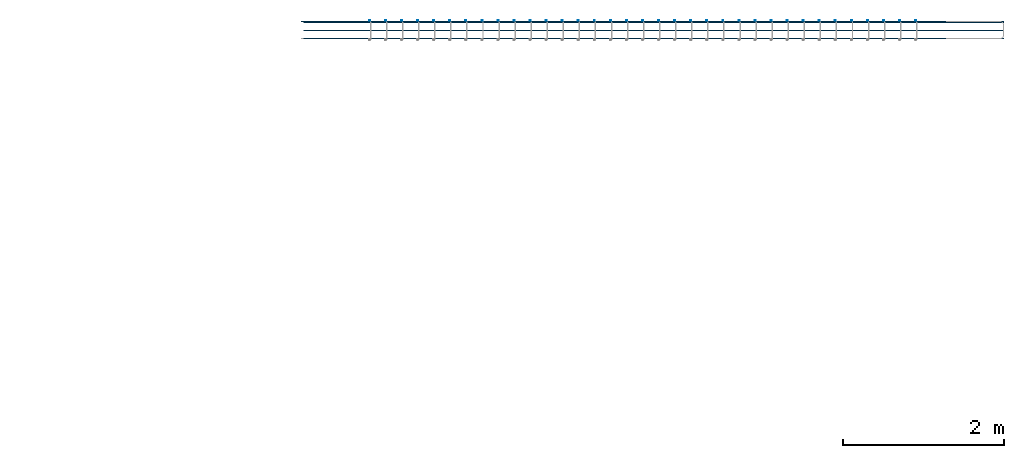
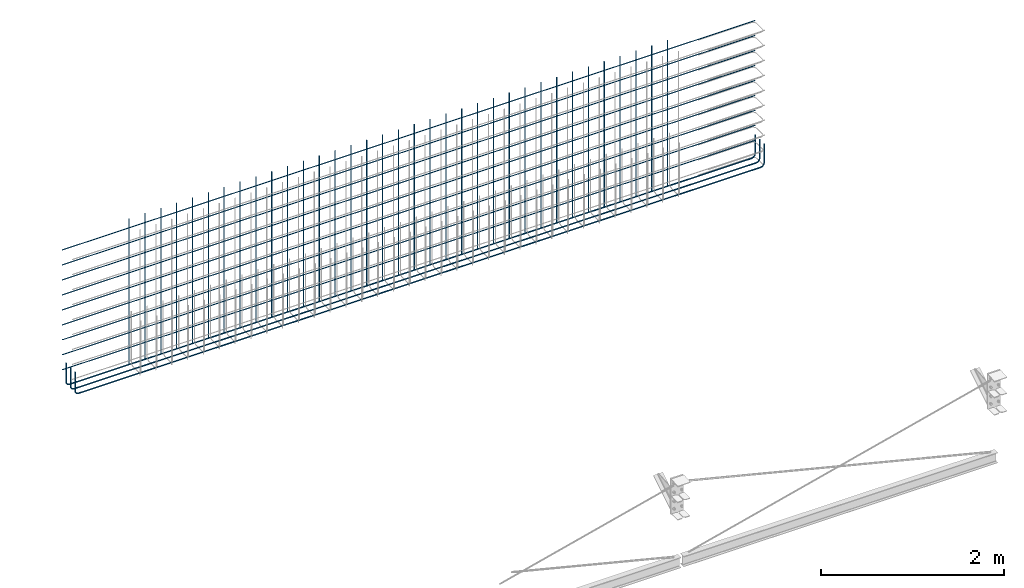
# One storey, part 4 of 21: 3 reinforcing bars.
"""IFC4X3_ADD2 building model written with IfcOpenShell, lengths in millimetres."""

import ifcopenshell
import ifcopenshell.guid

model = None  # the IFC model being written
_history = None  # IfcOwnerHistory: only IFC2X3 demands one
_inside = {}  # id of a spatial element -> (the spatial element, [elements in it])
_under = {}  # id of a project, library or spatial element -> (it, [spatial elements below it])
_declared = {}  # id of a project -> (the project, [libraries it declares])
_typed = {}  # id of a type object -> (the type object, [elements of that type])
_made_of = {}  # id of a material, layer set ... -> (it, [elements and type objects made of it])


def new_model(schema):
    """Start an empty IFC model of exactly this schema.

    Asked for "IFC4X3", IfcOpenShell would pick the latest addendum, in which some entities
    have other attributes; the version numbers below select the first issue.
    IFC2X3 requires an IfcOwnerHistory on every rooted entity: one is made here for all.
    """
    global model, _history
    if schema == "IFC4X3":
        model = ifcopenshell.file(schema_version=(4, 3, 0, 0))
    else:
        model = ifcopenshell.file(schema=schema)
    _inside.clear()
    _under.clear()
    _declared.clear()
    _typed.clear()
    _made_of.clear()
    _history = None
    if model.schema == "IFC2X3":
        org = make("IfcOrganization", Name="unknown")
        user = make(
            "IfcPersonAndOrganization",
            ThePerson=make("IfcPerson", FamilyName="unknown"),
            TheOrganization=org,
        )
        app = make(
            "IfcApplication",
            ApplicationDeveloper=org,
            Version="unknown",
            ApplicationFullName="unknown",
            ApplicationIdentifier="unknown",
        )
        _history = make(
            "IfcOwnerHistory",
            OwningUser=user,
            OwningApplication=app,
            ChangeAction="ADDED",
            CreationDate=0,
        )
    return model


def make(cls, **values):
    """One entity of the class cls with the attributes given. An attribute that is None is left unset."""
    return model.create_entity(
        cls, **{name: value for name, value in values.items() if value is not None}
    )


def entity(cls, *values):
    """Any entity or typed value of the class cls, its attributes in the order of the schema. None: left unset."""
    e = model.create_entity(cls)
    for i, value in enumerate(values):
        if value is not None:
            e[i] = value
    return e


def rooted(cls, **values):
    """An entity with a GlobalId (a new one), such as an element, a storey or a relation."""
    return make(cls, GlobalId=ifcopenshell.guid.new(), OwnerHistory=_history, **values)


def si_unit(unit_type, name, prefix=None):
    """IfcSIUnit, for example si_unit("LENGTHUNIT", "METRE", prefix="MILLI")."""
    return make("IfcSIUnit", UnitType=unit_type, Prefix=prefix, Name=name)


def converted_unit(unit_type, name, factor, base, dimensions=None, offset=None):
    """IfcConversionBasedUnit, such as the inch: factor (a typed value) times the base unit."""
    return make(
        "IfcConversionBasedUnit"
        if offset is None
        else "IfcConversionBasedUnitWithOffset",
        ConversionOffset=offset,
        Dimensions=None
        if dimensions is None
        else entity("IfcDimensionalExponents", *dimensions),
        UnitType=unit_type,
        Name=name,
        ConversionFactor=make(
            "IfcMeasureWithUnit", ValueComponent=factor, UnitComponent=base
        ),
    )


def derived_unit(unit_type, elements):
    """IfcDerivedUnit: a product of units, each with its exponent."""
    return make(
        "IfcDerivedUnit",
        Elements=[
            make("IfcDerivedUnitElement", Unit=unit, Exponent=power)
            for unit, power in elements
        ],
        UnitType=unit_type,
    )


def assignment(units):
    """IfcUnitAssignment: the units of a project."""
    return None if units is None else make("IfcUnitAssignment", Units=units)


def point(xyz):
    """IfcCartesianPoint."""
    return None if xyz is None else make("IfcCartesianPoint", Coordinates=xyz)


def direction(xyz):
    """IfcDirection."""
    return None if xyz is None else make("IfcDirection", DirectionRatios=xyz)


def frame(location, z_axis=None, x_axis=None):
    """IfcAxis2Placement3D, a coordinate frame: its origin and axes. An axis left out is left unset."""
    return make(
        "IfcAxis2Placement3D",
        Location=point(location),
        Axis=direction(z_axis),
        RefDirection=direction(x_axis),
    )


def origin():
    """The frame at (0, 0, 0) with its axes left unset."""
    return frame((0.0, 0.0, 0.0))


def place(relative_to, where):
    """IfcLocalPlacement: puts the frame where relative to a parent placement (None: the world)."""
    return make(
        "IfcLocalPlacement", PlacementRelTo=relative_to, RelativePlacement=where
    )


def context(
    kind, dimensions, precision=None, world=None, true_north=None, identifier=None
):
    """IfcGeometricRepresentationContext, for example the 3D "Model" context."""
    return make(
        "IfcGeometricRepresentationContext",
        ContextIdentifier=identifier,
        ContextType=kind,
        CoordinateSpaceDimension=dimensions,
        Precision=precision,
        WorldCoordinateSystem=world,
        TrueNorth=true_north,
    )


def subcontext(parent, identifier, kind, view, scale=None):
    """IfcGeometricRepresentationSubContext, for example "Body" below "Model"."""
    return make(
        "IfcGeometricRepresentationSubContext",
        ContextIdentifier=identifier,
        ContextType=kind,
        ParentContext=parent,
        TargetScale=scale,
        TargetView=view,
    )


def project(units=None, contexts=None):
    """IfcProject with its units and contexts."""
    return rooted(
        "IfcProject",
        Name="project",
        RepresentationContexts=contexts,
        UnitsInContext=assignment(units),
    )


def spatial(cls, under=None, at=None, **own):
    """A site, building, storey or space (cls), placed at a placement, below another one or the project."""
    s = rooted(cls, ObjectPlacement=at, **own)
    if under is not None:
        _under.setdefault(under.id(), (under, []))[1].append(s)
    return s


def shape(context_of_items, identifier, shape_type, items):
    """IfcShapeRepresentation: the items that make up one representation, for example the "Body"."""
    return make(
        "IfcShapeRepresentation",
        ContextOfItems=context_of_items,
        RepresentationIdentifier=identifier,
        RepresentationType=shape_type,
        Items=items,
    )


def material(Name=None, Category=None):
    """IfcMaterial."""
    return make("IfcMaterial", Name=Name, Category=Category)


def made_of(thing, what):
    """Note that an element or type object is made of a material, layer set ...; save() writes the relation."""
    if what is not None:
        _made_of.setdefault(what.id(), (what, []))[1].append(thing)
    return thing


def type_object(cls, material=None, **own):
    """A type object (cls), such as IfcWallType, which elements share."""
    return made_of(rooted(cls, **own), material)


def element(
    cls,
    number,
    at=None,
    inside=None,
    cuts=None,
    type_object=None,
    material=None,
    context=None,
    identifier="Body",
    shape_type=None,
    held_by="IfcProductDefinitionShape",
    body=None,
    shapes=None,
    **own,
):
    """One element of the class cls, such as IfcWall. Its Tag is "e" and its number.

    at: its placement. inside: the storey or other place that contains it. cuts: it is an
    opening in that element (IfcRelVoidsElement). A single representation is given by context,
    identifier, shape_type and body (its items); several are given by shapes. held_by: the class
    of the entity that holds the representations. save() writes the other relations.
    """
    e = rooted(cls, Tag="e%d" % number, ObjectPlacement=at, **own)
    if body is not None:
        shapes = [shape(context, identifier, shape_type, body)]
    if shapes is not None:
        e.Representation = make(held_by, Representations=shapes)
    if inside is not None:
        _inside.setdefault(inside.id(), (inside, []))[1].append(e)
    if cuts is not None:
        rooted(
            "IfcRelVoidsElement", RelatingBuildingElement=cuts, RelatedOpeningElement=e
        )
    if type_object is not None:
        _typed.setdefault(type_object.id(), (type_object, []))[1].append(e)
    return made_of(e, material)


def aggregate(whole, parts):
    """IfcRelAggregates: a whole, such as a stair, and the parts it consists of."""
    return rooted("IfcRelAggregates", RelatingObject=whole, RelatedObjects=parts)


def save(model, path):
    """Write the relations noted so far, then the file.

    IfcRelAggregates (storeys below a building ...), IfcRelContainedInSpatialStructure (elements
    in a storey), IfcRelDefinesByType, IfcRelAssociatesMaterial and IfcRelDeclares: one each for
    every whole, place, type object, material and project.
    """
    for whole, parts in _under.values():
        aggregate(whole, parts)
    for where, things in _inside.values():
        rooted(
            "IfcRelContainedInSpatialStructure",
            RelatedElements=things,
            RelatingStructure=where,
        )
    for kind, things in _typed.values():
        rooted("IfcRelDefinesByType", RelatedObjects=things, RelatingType=kind)
    for what, things in _made_of.values():
        rooted("IfcRelAssociatesMaterial", RelatedObjects=things, RelatingMaterial=what)
    for by, libraries in _declared.values():
        rooted("IfcRelDeclares", RelatingContext=by, RelatedDefinitions=libraries)
    model.write(path)


model = new_model("IFC4X3_ADD2")

# Units and contexts
model_context = context("Model", 3, precision=0.01, world=origin(), true_north=direction((6.123233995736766e-17, 1.0)))
plan_context = context("Plan", 3, precision=0.01, world=origin(), true_north=direction((6.123233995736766e-17, 1.0)))
body_context = subcontext(model_context, "Body", "Model", "MODEL_VIEW")
ifc_project = project(units=[si_unit("LENGTHUNIT", "METRE", prefix="MILLI"), converted_unit("PLANEANGLEUNIT", "DEGREE", entity("IfcPlaneAngleMeasure", 0.017453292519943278), si_unit("PLANEANGLEUNIT", "RADIAN"), dimensions=[0, 0, 0, 0, 0, 0, 0]), si_unit("AREAUNIT", "SQUARE_METRE"), si_unit("VOLUMEUNIT", "CUBIC_METRE"), derived_unit("THERMALTRANSMITTANCEUNIT", [(si_unit("MASSUNIT", "GRAM", prefix="KILO"), 1), (si_unit("THERMODYNAMICTEMPERATUREUNIT", "KELVIN"), -1), (si_unit("TIMEUNIT", "SECOND"), -3)]), derived_unit("USERDEFINED", [(si_unit("MASSUNIT", "GRAM", prefix="KILO"), 1), (si_unit("THERMODYNAMICTEMPERATUREUNIT", "KELVIN"), -1), (si_unit("TIMEUNIT", "SECOND"), -2)]), derived_unit("THERMALRESISTANCEUNIT", [(si_unit("MASSUNIT", "GRAM", prefix="KILO"), -1), (si_unit("TIMEUNIT", "SECOND"), 3), (si_unit("THERMODYNAMICTEMPERATUREUNIT", "KELVIN"), 1)]), si_unit("MASSUNIT", "GRAM", prefix="KILO"), derived_unit("MOMENTOFINERTIAUNIT", [(si_unit("LENGTHUNIT", "METRE"), 4)]), derived_unit("LINEARFORCEUNIT", [(si_unit("MASSUNIT", "GRAM", prefix="KILO"), 1), (si_unit("TIMEUNIT", "SECOND"), -2)]), derived_unit("WARPINGCONSTANTUNIT", [(si_unit("LENGTHUNIT", "METRE"), 6)]), si_unit("PRESSUREUNIT", "PASCAL"), derived_unit("MASSDENSITYUNIT", [(si_unit("MASSUNIT", "GRAM", prefix="KILO"), 1), (si_unit("LENGTHUNIT", "METRE"), -3)]), derived_unit("MODULUSOFELASTICITYUNIT", [(si_unit("MASSUNIT", "GRAM", prefix="KILO"), 1), (si_unit("TIMEUNIT", "SECOND"), -2), (si_unit("LENGTHUNIT", "METRE"), -1)]), derived_unit("THERMALEXPANSIONCOEFFICIENTUNIT", [(si_unit("THERMODYNAMICTEMPERATUREUNIT", "KELVIN"), -1)]), derived_unit("VAPORPERMEABILITYUNIT", [(si_unit("LENGTHUNIT", "METRE"), -1), (si_unit("TIMEUNIT", "SECOND"), 1)]), derived_unit("USERDEFINED", [(si_unit("MASSUNIT", "GRAM", prefix="KILO"), 1), (si_unit("TIMEUNIT", "SECOND"), -3), (si_unit("LENGTHUNIT", "METRE"), 3), (si_unit("ELECTRICCURRENTUNIT", "AMPERE"), -2)]), derived_unit("SPECIFICHEATCAPACITYUNIT", [(si_unit("THERMODYNAMICTEMPERATUREUNIT", "KELVIN"), -1), (si_unit("TIMEUNIT", "SECOND"), -2), (si_unit("LENGTHUNIT", "METRE"), 2)]), derived_unit("THERMALCONDUCTANCEUNIT", [(si_unit("MASSUNIT", "GRAM", prefix="KILO"), 1), (si_unit("THERMODYNAMICTEMPERATUREUNIT", "KELVIN"), -1), (si_unit("TIMEUNIT", "SECOND"), -3), (si_unit("LENGTHUNIT", "METRE"), 1)])], contexts=[model_context, plan_context])

# Site, building, storey
site_placement = place(None, origin())
site = spatial("IfcSite", under=ifc_project, at=site_placement, Name="Default", CompositionType="ELEMENT")
building_placement = place(site_placement, origin())
building = spatial("IfcBuilding", under=site, at=building_placement, Name="Complex structure", CompositionType="ELEMENT")
storey_placement = place(building_placement, frame((0.0, 0.0, 3000.0)))
storey = spatial("IfcBuildingStorey", under=building, at=storey_placement, Name="Level 01", CompositionType="ELEMENT", Elevation=3000.0)

# Reinforcing bars
ifc_material = material(Name="Steel Rebar - B500A, B or C", Category="Unassigned")
reinforcing_bar_type_1 = type_object("IfcReinforcingBarType", Name="Rebar Bar:12mm", PredefinedType="NOTDEFINED")
reinforcing_bar_1_placement = place(storey_placement, origin())
element("IfcReinforcingBar", 1, at=reinforcing_bar_1_placement, inside=storey, type_object=reinforcing_bar_type_1, material=ifc_material, Name="Rebar Bar:12mm : Shape 00", ObjectType="Rebar Bar:12mm", context=body_context, shape_type="AdvancedSweptSolid", body=[
    entity("IfcSweptDiskSolid", entity("IfcCompositeCurve", [entity("IfcCompositeCurveSegment", "CONTINUOUS", True, entity("IfcPolyline", [entity("IfcCartesianPoint", [-8568.221550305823, 4856.1332960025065, 25.0]), entity("IfcCartesianPoint", [-8568.221550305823, 4856.1332960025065, 1970.6246980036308])]))], False), 6.0, None, 0.0, 1.0),
    entity("IfcSweptDiskSolid", entity("IfcCompositeCurve", [entity("IfcCompositeCurveSegment", "CONTINUOUS", True, entity("IfcPolyline", [entity("IfcCartesianPoint", [-8368.221550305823, 4856.133296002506, 25.0]), entity("IfcCartesianPoint", [-8368.221550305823, 4856.133296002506, 1970.6246980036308])]))], False), 6.0, None, 0.0, 1.0),
    entity("IfcSweptDiskSolid", entity("IfcCompositeCurve", [entity("IfcCompositeCurveSegment", "CONTINUOUS", True, entity("IfcPolyline", [entity("IfcCartesianPoint", [-8168.221550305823, 4856.133296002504, 25.0]), entity("IfcCartesianPoint", [-8168.221550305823, 4856.133296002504, 1970.6246980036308])]))], False), 6.0, None, 0.0, 1.0),
    entity("IfcSweptDiskSolid", entity("IfcCompositeCurve", [entity("IfcCompositeCurveSegment", "CONTINUOUS", True, entity("IfcPolyline", [entity("IfcCartesianPoint", [-7968.221550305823, 4856.133296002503, 25.0]), entity("IfcCartesianPoint", [-7968.221550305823, 4856.133296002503, 1970.6246980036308])]))], False), 6.0, None, 0.0, 1.0),
    entity("IfcSweptDiskSolid", entity("IfcCompositeCurve", [entity("IfcCompositeCurveSegment", "CONTINUOUS", True, entity("IfcPolyline", [entity("IfcCartesianPoint", [-7768.221550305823, 4856.133296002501, 25.0]), entity("IfcCartesianPoint", [-7768.221550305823, 4856.133296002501, 1970.6246980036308])]))], False), 6.0, None, 0.0, 1.0),
    entity("IfcSweptDiskSolid", entity("IfcCompositeCurve", [entity("IfcCompositeCurveSegment", "CONTINUOUS", True, entity("IfcPolyline", [entity("IfcCartesianPoint", [-7568.221550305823, 4856.1332960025, 25.0]), entity("IfcCartesianPoint", [-7568.221550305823, 4856.1332960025, 1970.6246980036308])]))], False), 6.0, None, 0.0, 1.0),
    entity("IfcSweptDiskSolid", entity("IfcCompositeCurve", [entity("IfcCompositeCurveSegment", "CONTINUOUS", True, entity("IfcPolyline", [entity("IfcCartesianPoint", [-7368.221550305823, 4856.133296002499, 25.0]), entity("IfcCartesianPoint", [-7368.221550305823, 4856.133296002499, 1970.6246980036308])]))], False), 6.0, None, 0.0, 1.0),
    entity("IfcSweptDiskSolid", entity("IfcCompositeCurve", [entity("IfcCompositeCurveSegment", "CONTINUOUS", True, entity("IfcPolyline", [entity("IfcCartesianPoint", [-7168.221550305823, 4856.133296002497, 25.0]), entity("IfcCartesianPoint", [-7168.221550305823, 4856.133296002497, 1970.6246980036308])]))], False), 6.0, None, 0.0, 1.0),
    entity("IfcSweptDiskSolid", entity("IfcCompositeCurve", [entity("IfcCompositeCurveSegment", "CONTINUOUS", True, entity("IfcPolyline", [entity("IfcCartesianPoint", [-6968.221550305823, 4856.1332960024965, 25.0]), entity("IfcCartesianPoint", [-6968.221550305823, 4856.1332960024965, 1970.6246980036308])]))], False), 6.0, None, 0.0, 1.0),
    entity("IfcSweptDiskSolid", entity("IfcCompositeCurve", [entity("IfcCompositeCurveSegment", "CONTINUOUS", True, entity("IfcPolyline", [entity("IfcCartesianPoint", [-6768.221550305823, 4856.133296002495, 25.0]), entity("IfcCartesianPoint", [-6768.221550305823, 4856.133296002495, 1970.6246980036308])]))], False), 6.0, None, 0.0, 1.0),
    entity("IfcSweptDiskSolid", entity("IfcCompositeCurve", [entity("IfcCompositeCurveSegment", "CONTINUOUS", True, entity("IfcPolyline", [entity("IfcCartesianPoint", [-6568.221550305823, 4856.133296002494, 25.0]), entity("IfcCartesianPoint", [-6568.221550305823, 4856.133296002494, 1970.6246980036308])]))], False), 6.0, None, 0.0, 1.0),
    entity("IfcSweptDiskSolid", entity("IfcCompositeCurve", [entity("IfcCompositeCurveSegment", "CONTINUOUS", True, entity("IfcPolyline", [entity("IfcCartesianPoint", [-6368.221550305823, 4856.133296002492, 25.0]), entity("IfcCartesianPoint", [-6368.221550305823, 4856.133296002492, 1970.6246980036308])]))], False), 6.0, None, 0.0, 1.0),
    entity("IfcSweptDiskSolid", entity("IfcCompositeCurve", [entity("IfcCompositeCurveSegment", "CONTINUOUS", True, entity("IfcPolyline", [entity("IfcCartesianPoint", [-6168.221550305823, 4856.133296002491, 25.0]), entity("IfcCartesianPoint", [-6168.221550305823, 4856.133296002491, 1970.6246980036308])]))], False), 6.0, None, 0.0, 1.0),
    entity("IfcSweptDiskSolid", entity("IfcCompositeCurve", [entity("IfcCompositeCurveSegment", "CONTINUOUS", True, entity("IfcPolyline", [entity("IfcCartesianPoint", [-5968.221550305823, 4856.133296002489, 25.0]), entity("IfcCartesianPoint", [-5968.221550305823, 4856.133296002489, 1970.6246980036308])]))], False), 6.0, None, 0.0, 1.0),
    entity("IfcSweptDiskSolid", entity("IfcCompositeCurve", [entity("IfcCompositeCurveSegment", "CONTINUOUS", True, entity("IfcPolyline", [entity("IfcCartesianPoint", [-5768.221550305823, 4856.133296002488, 25.0]), entity("IfcCartesianPoint", [-5768.221550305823, 4856.133296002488, 1970.6246980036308])]))], False), 6.0, None, 0.0, 1.0),
    entity("IfcSweptDiskSolid", entity("IfcCompositeCurve", [entity("IfcCompositeCurveSegment", "CONTINUOUS", True, entity("IfcPolyline", [entity("IfcCartesianPoint", [-5568.221550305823, 4856.1332960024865, 25.0]), entity("IfcCartesianPoint", [-5568.221550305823, 4856.1332960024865, 1970.6246980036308])]))], False), 6.0, None, 0.0, 1.0),
    entity("IfcSweptDiskSolid", entity("IfcCompositeCurve", [entity("IfcCompositeCurveSegment", "CONTINUOUS", True, entity("IfcPolyline", [entity("IfcCartesianPoint", [-5368.221550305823, 4856.133296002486, 25.0]), entity("IfcCartesianPoint", [-5368.221550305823, 4856.133296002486, 1970.6246980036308])]))], False), 6.0, None, 0.0, 1.0),
    entity("IfcSweptDiskSolid", entity("IfcCompositeCurve", [entity("IfcCompositeCurveSegment", "CONTINUOUS", True, entity("IfcPolyline", [entity("IfcCartesianPoint", [-5168.221550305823, 4856.133296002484, 25.0]), entity("IfcCartesianPoint", [-5168.221550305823, 4856.133296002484, 1970.6246980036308])]))], False), 6.0, None, 0.0, 1.0),
    entity("IfcSweptDiskSolid", entity("IfcCompositeCurve", [entity("IfcCompositeCurveSegment", "CONTINUOUS", True, entity("IfcPolyline", [entity("IfcCartesianPoint", [-4968.221550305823, 4856.133296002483, 25.0]), entity("IfcCartesianPoint", [-4968.221550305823, 4856.133296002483, 1970.6246980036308])]))], False), 6.0, None, 0.0, 1.0),
    entity("IfcSweptDiskSolid", entity("IfcCompositeCurve", [entity("IfcCompositeCurveSegment", "CONTINUOUS", True, entity("IfcPolyline", [entity("IfcCartesianPoint", [-4768.221550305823, 4856.133296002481, 25.0]), entity("IfcCartesianPoint", [-4768.221550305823, 4856.133296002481, 1970.6246980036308])]))], False), 6.0, None, 0.0, 1.0),
    entity("IfcSweptDiskSolid", entity("IfcCompositeCurve", [entity("IfcCompositeCurveSegment", "CONTINUOUS", True, entity("IfcPolyline", [entity("IfcCartesianPoint", [-4568.221550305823, 4856.13329600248, 25.0]), entity("IfcCartesianPoint", [-4568.221550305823, 4856.13329600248, 1970.6246980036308])]))], False), 6.0, None, 0.0, 1.0),
    entity("IfcSweptDiskSolid", entity("IfcCompositeCurve", [entity("IfcCompositeCurveSegment", "CONTINUOUS", True, entity("IfcPolyline", [entity("IfcCartesianPoint", [-4368.221550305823, 4856.133296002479, 25.0]), entity("IfcCartesianPoint", [-4368.221550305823, 4856.133296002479, 1970.6246980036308])]))], False), 6.0, None, 0.0, 1.0),
    entity("IfcSweptDiskSolid", entity("IfcCompositeCurve", [entity("IfcCompositeCurveSegment", "CONTINUOUS", True, entity("IfcPolyline", [entity("IfcCartesianPoint", [-4168.221550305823, 4856.133296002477, 25.0]), entity("IfcCartesianPoint", [-4168.221550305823, 4856.133296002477, 1970.6246980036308])]))], False), 6.0, None, 0.0, 1.0),
    entity("IfcSweptDiskSolid", entity("IfcCompositeCurve", [entity("IfcCompositeCurveSegment", "CONTINUOUS", True, entity("IfcPolyline", [entity("IfcCartesianPoint", [-3968.2215503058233, 4856.1332960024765, 25.0]), entity("IfcCartesianPoint", [-3968.2215503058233, 4856.1332960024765, 1970.6246980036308])]))], False), 6.0, None, 0.0, 1.0),
    entity("IfcSweptDiskSolid", entity("IfcCompositeCurve", [entity("IfcCompositeCurveSegment", "CONTINUOUS", True, entity("IfcPolyline", [entity("IfcCartesianPoint", [-3768.221550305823, 4856.133296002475, 25.0]), entity("IfcCartesianPoint", [-3768.221550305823, 4856.133296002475, 1970.6246980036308])]))], False), 6.0, None, 0.0, 1.0),
    entity("IfcSweptDiskSolid", entity("IfcCompositeCurve", [entity("IfcCompositeCurveSegment", "CONTINUOUS", True, entity("IfcPolyline", [entity("IfcCartesianPoint", [-3568.2215503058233, 4856.133296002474, 25.0]), entity("IfcCartesianPoint", [-3568.2215503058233, 4856.133296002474, 1970.6246980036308])]))], False), 6.0, None, 0.0, 1.0),
    entity("IfcSweptDiskSolid", entity("IfcCompositeCurve", [entity("IfcCompositeCurveSegment", "CONTINUOUS", True, entity("IfcPolyline", [entity("IfcCartesianPoint", [-3368.2215503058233, 4856.133296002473, 25.0]), entity("IfcCartesianPoint", [-3368.2215503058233, 4856.133296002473, 1970.6246980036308])]))], False), 6.0, None, 0.0, 1.0),
    entity("IfcSweptDiskSolid", entity("IfcCompositeCurve", [entity("IfcCompositeCurveSegment", "CONTINUOUS", True, entity("IfcPolyline", [entity("IfcCartesianPoint", [-3168.2215503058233, 4856.133296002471, 25.0]), entity("IfcCartesianPoint", [-3168.2215503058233, 4856.133296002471, 1970.6246980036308])]))], False), 6.0, None, 0.0, 1.0),
    entity("IfcSweptDiskSolid", entity("IfcCompositeCurve", [entity("IfcCompositeCurveSegment", "CONTINUOUS", True, entity("IfcPolyline", [entity("IfcCartesianPoint", [-2968.2215503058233, 4856.13329600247, 25.0]), entity("IfcCartesianPoint", [-2968.2215503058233, 4856.13329600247, 1970.6246980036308])]))], False), 6.0, None, 0.0, 1.0),
    entity("IfcSweptDiskSolid", entity("IfcCompositeCurve", [entity("IfcCompositeCurveSegment", "CONTINUOUS", True, entity("IfcPolyline", [entity("IfcCartesianPoint", [-2768.2215503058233, 4856.133296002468, 25.0]), entity("IfcCartesianPoint", [-2768.2215503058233, 4856.133296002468, 1970.6246980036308])]))], False), 6.0, None, 0.0, 1.0),
    entity("IfcSweptDiskSolid", entity("IfcCompositeCurve", [entity("IfcCompositeCurveSegment", "CONTINUOUS", True, entity("IfcPolyline", [entity("IfcCartesianPoint", [-2568.2215503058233, 4856.133296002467, 25.0]), entity("IfcCartesianPoint", [-2568.2215503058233, 4856.133296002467, 1970.6246980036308])]))], False), 6.0, None, 0.0, 1.0),
    entity("IfcSweptDiskSolid", entity("IfcCompositeCurve", [entity("IfcCompositeCurveSegment", "CONTINUOUS", True, entity("IfcPolyline", [entity("IfcCartesianPoint", [-2368.2215503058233, 4856.1332960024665, 25.0]), entity("IfcCartesianPoint", [-2368.2215503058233, 4856.1332960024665, 1970.6246980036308])]))], False), 6.0, None, 0.0, 1.0),
    entity("IfcSweptDiskSolid", entity("IfcCompositeCurve", [entity("IfcCompositeCurveSegment", "CONTINUOUS", True, entity("IfcPolyline", [entity("IfcCartesianPoint", [-2168.2215503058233, 4856.133296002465, 25.0]), entity("IfcCartesianPoint", [-2168.2215503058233, 4856.133296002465, 1970.6246980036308])]))], False), 6.0, None, 0.0, 1.0),
    entity("IfcSweptDiskSolid", entity("IfcCompositeCurve", [entity("IfcCompositeCurveSegment", "CONTINUOUS", True, entity("IfcPolyline", [entity("IfcCartesianPoint", [-1968.221550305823, 4856.133296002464, 25.0]), entity("IfcCartesianPoint", [-1968.221550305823, 4856.133296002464, 1970.6246980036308])]))], False), 6.0, None, 0.0, 1.0),
    entity("IfcSweptDiskSolid", entity("IfcCompositeCurve", [entity("IfcCompositeCurveSegment", "CONTINUOUS", True, entity("IfcPolyline", [entity("IfcCartesianPoint", [-1768.221550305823, 4856.133296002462, 25.0]), entity("IfcCartesianPoint", [-1768.221550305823, 4856.133296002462, 1970.6246980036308])]))], False), 6.0, None, 0.0, 1.0),
])
reinforcing_bar_2_placement = place(storey_placement, origin())
element("IfcReinforcingBar", 2, at=reinforcing_bar_2_placement, inside=storey, type_object=reinforcing_bar_type_1, material=ifc_material, Name="Rebar Bar:12mm : Shape 00", ObjectType="Rebar Bar:12mm", context=body_context, shape_type="AdvancedSweptSolid", body=[
    entity("IfcSweptDiskSolid", entity("IfcCompositeCurve", [entity("IfcCompositeCurveSegment", "CONTINUOUS", True, entity("IfcPolyline", [entity("IfcCartesianPoint", [-670.2215503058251, 4844.133296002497, 259.0]), entity("IfcCartesianPoint", [-9420.221550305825, 4844.133296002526, 259.0])]))], False), 6.0, None, 0.0, 1.0),
    entity("IfcSweptDiskSolid", entity("IfcCompositeCurve", [entity("IfcCompositeCurveSegment", "CONTINUOUS", True, entity("IfcPolyline", [entity("IfcCartesianPoint", [-670.2215503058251, 4844.133296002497, 459.0]), entity("IfcCartesianPoint", [-9420.221550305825, 4844.133296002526, 459.0])]))], False), 6.0, None, 0.0, 1.0),
    entity("IfcSweptDiskSolid", entity("IfcCompositeCurve", [entity("IfcCompositeCurveSegment", "CONTINUOUS", True, entity("IfcPolyline", [entity("IfcCartesianPoint", [-670.2215503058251, 4844.133296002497, 659.0]), entity("IfcCartesianPoint", [-9420.221550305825, 4844.133296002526, 659.0])]))], False), 6.0, None, 0.0, 1.0),
    entity("IfcSweptDiskSolid", entity("IfcCompositeCurve", [entity("IfcCompositeCurveSegment", "CONTINUOUS", True, entity("IfcPolyline", [entity("IfcCartesianPoint", [-670.2215503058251, 4844.133296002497, 859.0]), entity("IfcCartesianPoint", [-9420.221550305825, 4844.133296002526, 859.0])]))], False), 6.0, None, 0.0, 1.0),
    entity("IfcSweptDiskSolid", entity("IfcCompositeCurve", [entity("IfcCompositeCurveSegment", "CONTINUOUS", True, entity("IfcPolyline", [entity("IfcCartesianPoint", [-670.2215503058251, 4844.133296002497, 1059.0]), entity("IfcCartesianPoint", [-9420.221550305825, 4844.133296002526, 1059.0])]))], False), 6.0, None, 0.0, 1.0),
    entity("IfcSweptDiskSolid", entity("IfcCompositeCurve", [entity("IfcCompositeCurveSegment", "CONTINUOUS", True, entity("IfcPolyline", [entity("IfcCartesianPoint", [-670.2215503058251, 4844.133296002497, 1259.0]), entity("IfcCartesianPoint", [-9420.221550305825, 4844.133296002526, 1259.0])]))], False), 6.0, None, 0.0, 1.0),
    entity("IfcSweptDiskSolid", entity("IfcCompositeCurve", [entity("IfcCompositeCurveSegment", "CONTINUOUS", True, entity("IfcPolyline", [entity("IfcCartesianPoint", [-670.2215503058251, 4844.133296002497, 1459.0]), entity("IfcCartesianPoint", [-9420.221550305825, 4844.133296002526, 1459.0])]))], False), 6.0, None, 0.0, 1.0),
    entity("IfcSweptDiskSolid", entity("IfcCompositeCurve", [entity("IfcCompositeCurveSegment", "CONTINUOUS", True, entity("IfcPolyline", [entity("IfcCartesianPoint", [-670.2215503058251, 4844.133296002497, 1659.0]), entity("IfcCartesianPoint", [-9420.221550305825, 4844.133296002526, 1659.0])]))], False), 6.0, None, 0.0, 1.0),
    entity("IfcSweptDiskSolid", entity("IfcCompositeCurve", [entity("IfcCompositeCurveSegment", "CONTINUOUS", True, entity("IfcPolyline", [entity("IfcCartesianPoint", [-670.2215503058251, 4844.133296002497, 1859.0]), entity("IfcCartesianPoint", [-9420.221550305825, 4844.133296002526, 1859.0])]))], False), 6.0, None, 0.0, 1.0),
])
reinforcing_bar_type_2 = type_object("IfcReinforcingBarType", Name="Rebar Bar:16mm", PredefinedType="NOTDEFINED")
reinforcing_bar_3_placement = place(storey_placement, origin())
ifc_direction_1 = entity("IfcDirection", [0.0, 1.0, 0.0])
ifc_direction_2 = entity("IfcDirection", [0.0, 1.0, 0.0])
ifc_direction_3 = entity("IfcDirection", [0.0, 1.0, 0.0])
element("IfcReinforcingBar", 3, at=reinforcing_bar_3_placement, inside=storey, type_object=reinforcing_bar_type_2, material=ifc_material, Name="Rebar Bar:16mm : Shape 21", ObjectType="Rebar Bar:16mm", context=body_context, shape_type="AdvancedSweptSolid", body=[
    entity("IfcSweptDiskSolid", entity("IfcCompositeCurve", [entity("IfcCompositeCurveSegment", "CONTINUOUS", True, entity("IfcPolyline", [entity("IfcCartesianPoint", [-678.2215503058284, 4632.133296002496, 345.0]), entity("IfcCartesianPoint", [-678.2215503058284, 4632.133296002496, 93.0])])), entity("IfcCompositeCurveSegment", "CONTINUOUS", True, entity("IfcTrimmedCurve", entity("IfcCircle", entity("IfcAxis2Placement3D", entity("IfcCartesianPoint", [-726.2215503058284, 4632.133296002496, 93.0]), ifc_direction_1, entity("IfcDirection", [0.0, 0.0, -1.0])), 48.0), [entity("IfcParameterValue", 269.9999999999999)], [entity("IfcParameterValue", 360.00000000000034)], True, "PARAMETER")), entity("IfcCompositeCurveSegment", "CONTINUOUS", True, entity("IfcPolyline", [entity("IfcCartesianPoint", [-726.2215503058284, 4632.133296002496, 45.0]), entity("IfcCartesianPoint", [-9332.863355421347, 4632.133296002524, 45.0])])), entity("IfcCompositeCurveSegment", "CONTINUOUS", True, entity("IfcTrimmedCurve", entity("IfcCircle", entity("IfcAxis2Placement3D", entity("IfcCartesianPoint", [-9332.863355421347, 4632.133296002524, 93.0]), ifc_direction_1, entity("IfcDirection", [-1.0, 0.0, 0.0])), 48.0), [entity("IfcParameterValue", 269.9999999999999)], [entity("IfcParameterValue", 360.00000000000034)], True, "PARAMETER")), entity("IfcCompositeCurveSegment", "CONTINUOUS", True, entity("IfcPolyline", [entity("IfcCartesianPoint", [-9380.863355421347, 4632.133296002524, 93.0]), entity("IfcCartesianPoint", [-9380.863355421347, 4632.133296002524, 345.0])]))], False), 8.0, None, 0.0, 183.00000000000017),
    entity("IfcSweptDiskSolid", entity("IfcCompositeCurve", [entity("IfcCompositeCurveSegment", "CONTINUOUS", True, entity("IfcPolyline", [entity("IfcCartesianPoint", [-678.221550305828, 4731.133296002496, 345.0]), entity("IfcCartesianPoint", [-678.221550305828, 4731.133296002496, 93.0])])), entity("IfcCompositeCurveSegment", "CONTINUOUS", True, entity("IfcTrimmedCurve", entity("IfcCircle", entity("IfcAxis2Placement3D", entity("IfcCartesianPoint", [-726.2215503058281, 4731.133296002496, 93.0]), ifc_direction_2, entity("IfcDirection", [0.0, 0.0, -1.0])), 48.0), [entity("IfcParameterValue", 269.9999999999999)], [entity("IfcParameterValue", 360.00000000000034)], True, "PARAMETER")), entity("IfcCompositeCurveSegment", "CONTINUOUS", True, entity("IfcPolyline", [entity("IfcCartesianPoint", [-726.2215503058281, 4731.133296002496, 45.0]), entity("IfcCartesianPoint", [-9332.863355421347, 4731.133296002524, 45.0])])), entity("IfcCompositeCurveSegment", "CONTINUOUS", True, entity("IfcTrimmedCurve", entity("IfcCircle", entity("IfcAxis2Placement3D", entity("IfcCartesianPoint", [-9332.863355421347, 4731.133296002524, 93.0]), ifc_direction_2, entity("IfcDirection", [-1.0, 0.0, 0.0])), 48.0), [entity("IfcParameterValue", 269.9999999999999)], [entity("IfcParameterValue", 360.00000000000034)], True, "PARAMETER")), entity("IfcCompositeCurveSegment", "CONTINUOUS", True, entity("IfcPolyline", [entity("IfcCartesianPoint", [-9380.863355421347, 4731.133296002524, 93.0]), entity("IfcCartesianPoint", [-9380.863355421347, 4731.133296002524, 345.0])]))], False), 8.0, None, 0.0, 183.00000000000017),
    entity("IfcSweptDiskSolid", entity("IfcCompositeCurve", [entity("IfcCompositeCurveSegment", "CONTINUOUS", True, entity("IfcPolyline", [entity("IfcCartesianPoint", [-678.2215503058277, 4830.133296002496, 345.0]), entity("IfcCartesianPoint", [-678.2215503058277, 4830.133296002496, 93.0])])), entity("IfcCompositeCurveSegment", "CONTINUOUS", True, entity("IfcTrimmedCurve", entity("IfcCircle", entity("IfcAxis2Placement3D", entity("IfcCartesianPoint", [-726.2215503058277, 4830.133296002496, 93.0]), ifc_direction_3, entity("IfcDirection", [0.0, 0.0, -1.0])), 48.0), [entity("IfcParameterValue", 269.9999999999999)], [entity("IfcParameterValue", 360.00000000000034)], True, "PARAMETER")), entity("IfcCompositeCurveSegment", "CONTINUOUS", True, entity("IfcPolyline", [entity("IfcCartesianPoint", [-726.2215503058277, 4830.133296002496, 45.0]), entity("IfcCartesianPoint", [-9332.863355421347, 4830.133296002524, 45.0])])), entity("IfcCompositeCurveSegment", "CONTINUOUS", True, entity("IfcTrimmedCurve", entity("IfcCircle", entity("IfcAxis2Placement3D", entity("IfcCartesianPoint", [-9332.863355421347, 4830.133296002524, 93.0]), ifc_direction_3, entity("IfcDirection", [-1.0, 0.0, 0.0])), 48.0), [entity("IfcParameterValue", 269.9999999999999)], [entity("IfcParameterValue", 360.00000000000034)], True, "PARAMETER")), entity("IfcCompositeCurveSegment", "CONTINUOUS", True, entity("IfcPolyline", [entity("IfcCartesianPoint", [-9380.863355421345, 4830.133296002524, 93.0]), entity("IfcCartesianPoint", [-9380.863355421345, 4830.133296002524, 345.0])]))], False), 8.0, None, 0.0, 183.00000000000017),
])

save(model, "model.ifc")
